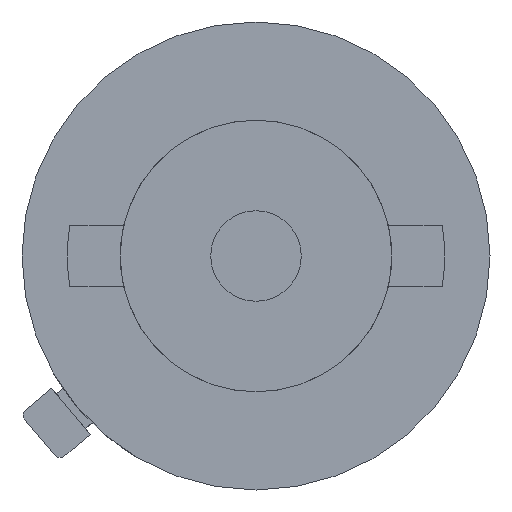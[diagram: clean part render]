
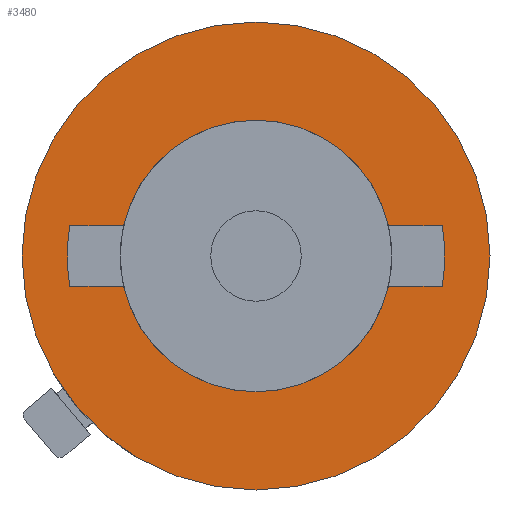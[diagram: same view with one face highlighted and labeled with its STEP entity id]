
A CAD part, front view. The second image highlights one B-rep face of the part: STEP entity #3480.
In plain terms, the highlighted planar face has unit normal (0, -1, 0).
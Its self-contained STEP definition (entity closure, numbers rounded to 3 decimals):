
#127 = LINE ( 'NONE', #688, #20311 ) ;
#194 = AXIS2_PLACEMENT_3D ( 'NONE', #16478, #13550, #11287 ) ;
#604 = EDGE_CURVE ( 'NONE', #22020, #5361, #9591, .T. ) ;
#688 = CARTESIAN_POINT ( 'NONE',  ( 6.326, -10.4, 2. ) ) ;
#734 = EDGE_LOOP ( 'NONE', ( #29408, #1963, #9549, #28151, #3741, #27350, #30364, #33550 ) ) ;
#1647 = DIRECTION ( 'NONE',  ( 0., 0., 1. ) ) ;
#1963 = ORIENTED_EDGE ( 'NONE', *, *, #19543, .T. ) ;
#2417 = VERTEX_POINT ( 'NONE', #6570 ) ;
#2875 = CIRCLE ( 'NONE', #25360, 15.5 ) ;
#3480 = ADVANCED_FACE ( 'NONE', ( #27658, #31425 ), #12243, .F. ) ;
#3575 = CIRCLE ( 'NONE', #8537, 9. ) ;
#3741 = ORIENTED_EDGE ( 'NONE', *, *, #604, .T. ) ;
#3885 = DIRECTION ( 'NONE',  ( 0., 0., 1. ) ) ;
#3943 = LINE ( 'NONE', #15406, #23422 ) ;
#4205 = DIRECTION ( 'NONE',  ( 1., 0., 0. ) ) ;
#4915 = AXIS2_PLACEMENT_3D ( 'NONE', #20049, #12384, #3885 ) ;
#5361 = VERTEX_POINT ( 'NONE', #17540 ) ;
#5923 = CARTESIAN_POINT ( 'NONE',  ( -8.775, -10.4, -2. ) ) ;
#6570 = CARTESIAN_POINT ( 'NONE',  ( 8.775, -10.4, -2. ) ) ;
#6666 = DIRECTION ( 'NONE',  ( 0., 1., 0. ) ) ;
#7774 = DIRECTION ( 'NONE',  ( 0., 1., 0. ) ) ;
#7810 = CIRCLE ( 'NONE', #194, 12.5 ) ;
#7915 = VECTOR ( 'NONE', #4205, 1000. ) ;
#8172 = CARTESIAN_POINT ( 'NONE',  ( -6.326, -10.4, -2. ) ) ;
#8537 = AXIS2_PLACEMENT_3D ( 'NONE', #23093, #17272, #33701 ) ;
#8895 = EDGE_CURVE ( 'NONE', #27263, #21109, #127, .T. ) ;
#9311 = VERTEX_POINT ( 'NONE', #16788 ) ;
#9549 = ORIENTED_EDGE ( 'NONE', *, *, #11218, .F. ) ;
#9591 = LINE ( 'NONE', #8172, #29485 ) ;
#9728 = DIRECTION ( 'NONE',  ( -1., 0., 0. ) ) ;
#10138 = EDGE_LOOP ( 'NONE', ( #30217 ) ) ;
#10625 = DIRECTION ( 'NONE',  ( 0., 0., 1. ) ) ;
#10964 = EDGE_CURVE ( 'NONE', #18560, #18560, #2875, .T. ) ;
#11218 = EDGE_CURVE ( 'NONE', #2417, #22093, #15106, .T. ) ;
#11287 = DIRECTION ( 'NONE',  ( 0., 0., -1. ) ) ;
#11985 = CARTESIAN_POINT ( 'NONE',  ( 6.326, -10.4, -2. ) ) ;
#12243 = PLANE ( 'NONE',  #33380 ) ;
#12384 = DIRECTION ( 'NONE',  ( 0., 1., 0. ) ) ;
#13550 = DIRECTION ( 'NONE',  ( 0., -1., 0. ) ) ;
#13598 = CIRCLE ( 'NONE', #21467, 12.5 ) ;
#14165 = EDGE_CURVE ( 'NONE', #24287, #9311, #3943, .T. ) ;
#14848 = CARTESIAN_POINT ( 'NONE',  ( 0., -10.4, 0. ) ) ;
#15090 = DIRECTION ( 'NONE',  ( 0., 1., 0. ) ) ;
#15106 = LINE ( 'NONE', #11985, #7915 ) ;
#15406 = CARTESIAN_POINT ( 'NONE',  ( -6.326, -10.4, 2. ) ) ;
#16478 = CARTESIAN_POINT ( 'NONE',  ( 0., -10.4, 0. ) ) ;
#16788 = CARTESIAN_POINT ( 'NONE',  ( -12.339, -10.4, 2. ) ) ;
#16938 = DIRECTION ( 'NONE',  ( 1., 0., 0. ) ) ;
#17272 = DIRECTION ( 'NONE',  ( 0., 1., 0. ) ) ;
#17540 = CARTESIAN_POINT ( 'NONE',  ( -12.339, -10.4, -2. ) ) ;
#18048 = EDGE_CURVE ( 'NONE', #2417, #22020, #32152, .T. ) ;
#18560 = VERTEX_POINT ( 'NONE', #28933 ) ;
#19154 = DIRECTION ( 'NONE',  ( -1., 0., 0. ) ) ;
#19543 = EDGE_CURVE ( 'NONE', #21109, #22093, #13598, .T. ) ;
#20049 = CARTESIAN_POINT ( 'NONE',  ( 0., -10.4, 0. ) ) ;
#20311 = VECTOR ( 'NONE', #16938, 1000. ) ;
#21109 = VERTEX_POINT ( 'NONE', #27873 ) ;
#21467 = AXIS2_PLACEMENT_3D ( 'NONE', #14848, #6666, #25695 ) ;
#22020 = VERTEX_POINT ( 'NONE', #5923 ) ;
#22093 = VERTEX_POINT ( 'NONE', #26127 ) ;
#23093 = CARTESIAN_POINT ( 'NONE',  ( 0., -10.4, 0. ) ) ;
#23422 = VECTOR ( 'NONE', #9728, 1000. ) ;
#24287 = VERTEX_POINT ( 'NONE', #26655 ) ;
#25360 = AXIS2_PLACEMENT_3D ( 'NONE', #29291, #7774, #10625 ) ;
#25695 = DIRECTION ( 'NONE',  ( 0., 0., -1. ) ) ;
#26127 = CARTESIAN_POINT ( 'NONE',  ( 12.339, -10.4, -2. ) ) ;
#26655 = CARTESIAN_POINT ( 'NONE',  ( -8.775, -10.4, 2. ) ) ;
#27263 = VERTEX_POINT ( 'NONE', #33042 ) ;
#27350 = ORIENTED_EDGE ( 'NONE', *, *, #29285, .F. ) ;
#27658 = FACE_OUTER_BOUND ( 'NONE', #10138, .T. ) ;
#27873 = CARTESIAN_POINT ( 'NONE',  ( 12.339, -10.4, 2. ) ) ;
#28151 = ORIENTED_EDGE ( 'NONE', *, *, #18048, .T. ) ;
#28553 = CARTESIAN_POINT ( 'NONE',  ( 15.5, -10.4, 0. ) ) ;
#28933 = CARTESIAN_POINT ( 'NONE',  ( 0., -10.4, 15.5 ) ) ;
#29285 = EDGE_CURVE ( 'NONE', #9311, #5361, #7810, .T. ) ;
#29291 = CARTESIAN_POINT ( 'NONE',  ( 0., -10.4, 0. ) ) ;
#29408 = ORIENTED_EDGE ( 'NONE', *, *, #8895, .T. ) ;
#29458 = EDGE_CURVE ( 'NONE', #24287, #27263, #3575, .T. ) ;
#29485 = VECTOR ( 'NONE', #19154, 1000. ) ;
#30217 = ORIENTED_EDGE ( 'NONE', *, *, #10964, .F. ) ;
#30364 = ORIENTED_EDGE ( 'NONE', *, *, #14165, .F. ) ;
#31425 = FACE_BOUND ( 'NONE', #734, .T. ) ;
#32152 = CIRCLE ( 'NONE', #4915, 9. ) ;
#33042 = CARTESIAN_POINT ( 'NONE',  ( 8.775, -10.4, 2. ) ) ;
#33380 = AXIS2_PLACEMENT_3D ( 'NONE', #28553, #15090, #1647 ) ;
#33550 = ORIENTED_EDGE ( 'NONE', *, *, #29458, .T. ) ;
#33701 = DIRECTION ( 'NONE',  ( 0., 0., 1. ) ) ;
